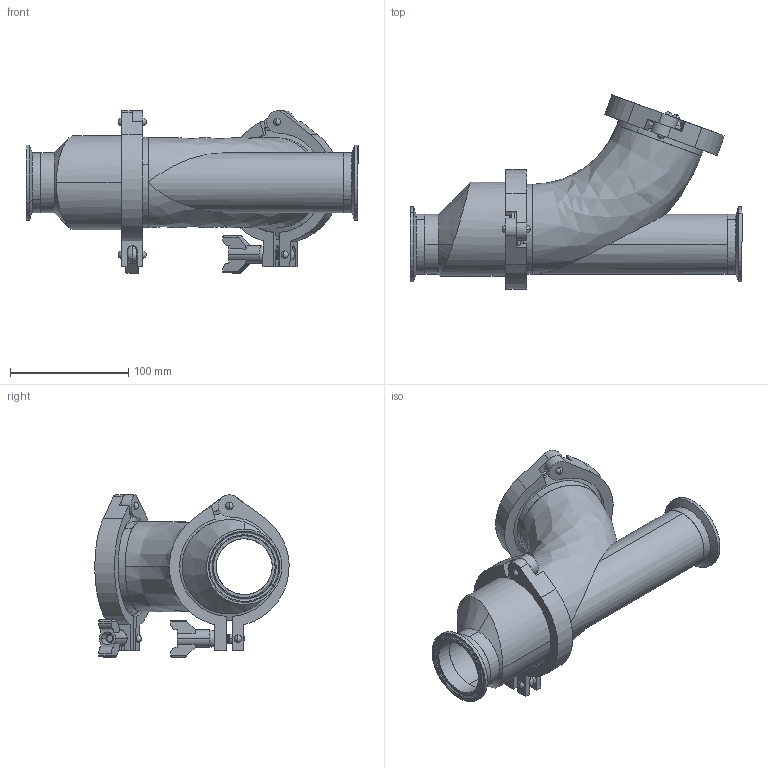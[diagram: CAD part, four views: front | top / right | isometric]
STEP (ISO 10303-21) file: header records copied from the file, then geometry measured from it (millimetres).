
FILE_DESCRIPTION (( 'STEP AP203' ), '1' );
FILE_NAME ('EG45BY-62.0.STEP', '2019-11-14T20:22:46', ( 'vneprd' ), ( 'Microsoft' ), 'SwSTEP 2.0', 'SolidWorks 2018', '' );
FILE_SCHEMA (( 'CONFIG_CONTROL_DESIGN' ));
Length unit declared in the file: inch
Products named in the file (1): EG45BY-62.0
Bounding box: 281.31 x 164.53 x 137.6 mm (x, y, z)
Volume: 378347.4 mm3; surface area: 243330.2 mm2
Topology: 21 solids, 21 shells, 513 faces, 1266 edges, 810 vertices
Faces by surface type: cylinder 240, plane 123, torus 68, cone 40, sphere 28, bspline 14
Entity records: 27124 total; most frequent: CARTESIAN_POINT 15277, ORIENTED_EDGE 2524, DIRECTION 2472, EDGE_CURVE 1262, AXIS2_PLACEMENT_3D 1008, VERTEX_POINT 810, EDGE_LOOP 574, FACE_OUTER_BOUND 513
